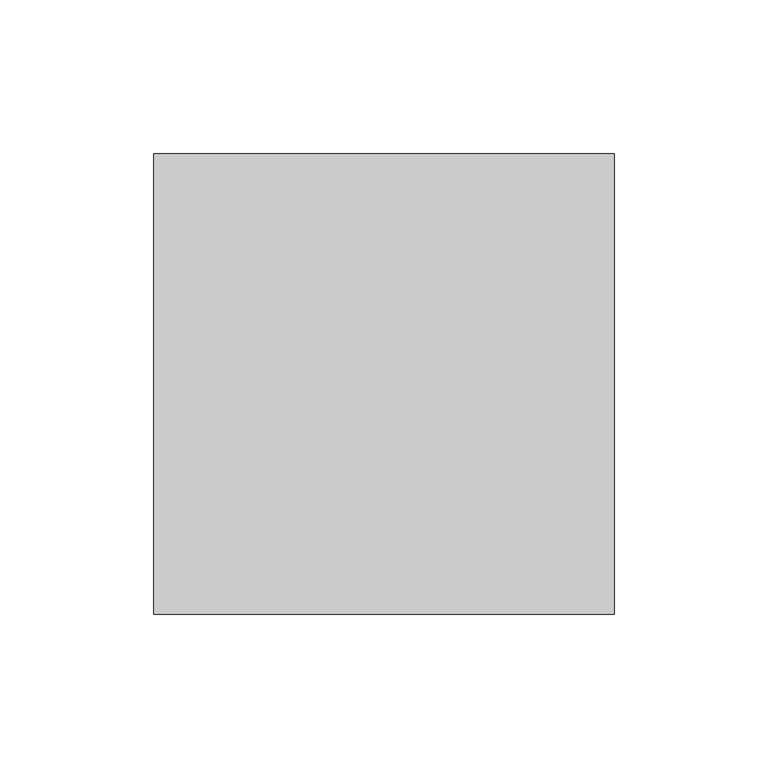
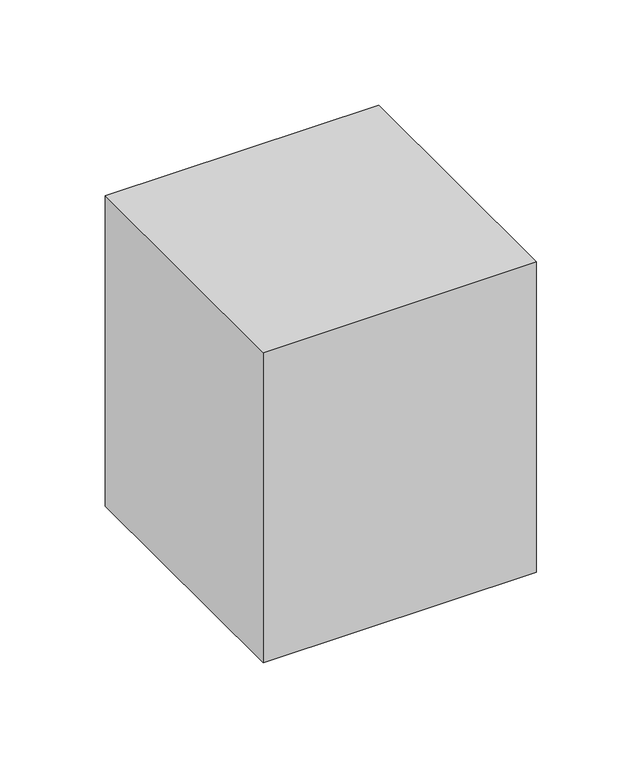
"""IFC4 building model written with IfcOpenShell, lengths in millimetres: proxy geometry, Брус : 150х150."""

from ifc_helpers import new_model, si_unit, origin, origin_with_axes, place, context, project, spatial, polyline, outline, extrude, source, transform, mapped, element, save


def generic_models_bb56d079(model_context):
    return source(origin(), model_context, "Body", "SweptSolid", [
        extrude(outline(polyline([(150.0, 0.0), (0.0, 0.0), (0.0, 150.0), (150.0, 150.0), (150.0, 0.0)])), origin_with_axes(), (0.0, 0.0, 1.0), 180.0),
    ])


if __name__ == "__main__":
    model = new_model("IFC4")
    model_context = context("Model", 3, world=origin())
    ifc_project = project(units=[si_unit("LENGTHUNIT", "METRE", prefix="MILLI")], contexts=[model_context])
    site = spatial("IfcSite", under=ifc_project)
    building = spatial("IfcBuilding", under=site)
    placement = place(None, origin())
    generic_models_shape = generic_models_bb56d079(model_context)
    element("IfcBuildingElementProxy", 1, Name="Брус : 150х150", ObjectType="Брус : 150х150", at=placement, inside=building, context=model_context, shape_type="MappedRepresentation", body=[
        mapped(generic_models_shape, transform((0.0, 0.0, 0.0), x_axis=(1.0, 0.0, 0.0), y_axis=(0.0, 1.0, 0.0), z_axis=(0.0, 0.0, 1.0))),
    ])
    save(model, "model.ifc")
